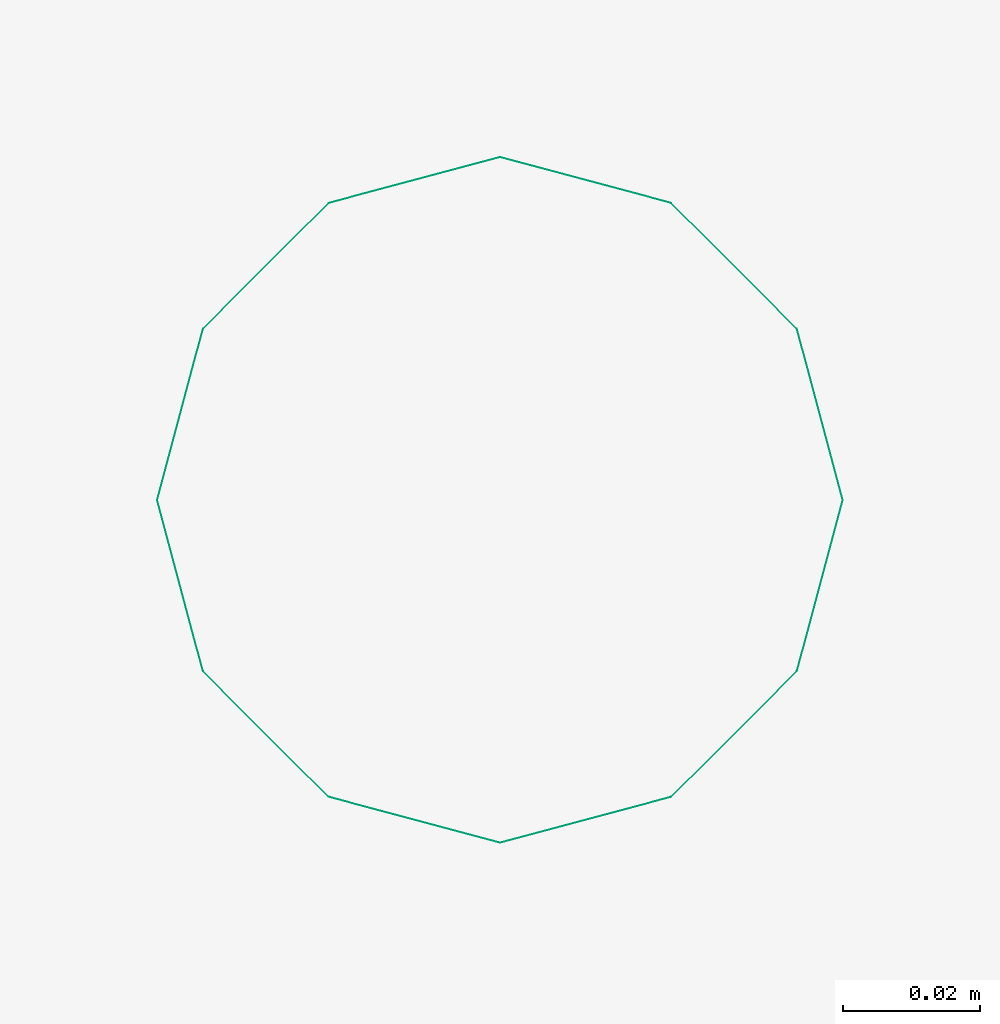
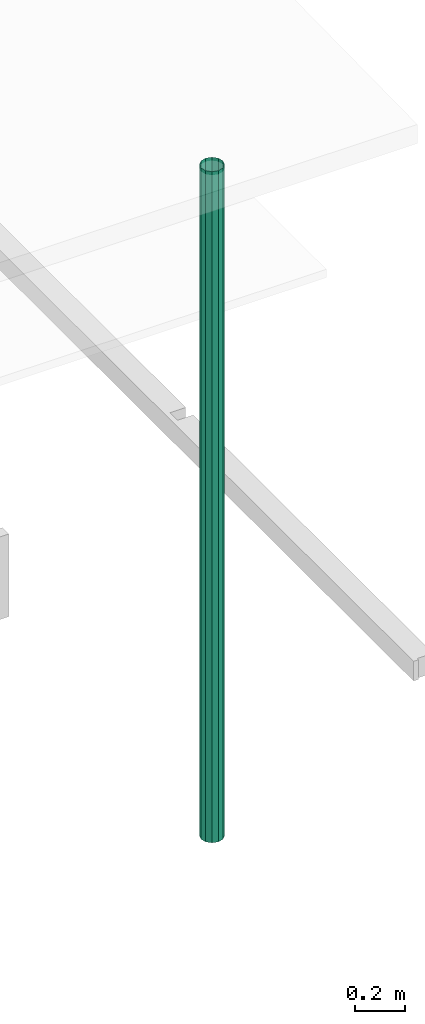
# One storey, part 23 of 25: 1 distribution flow element.
"""IFC2X3 building model written with IfcOpenShell, lengths in millimetres."""

from ifc_helpers import new_model, entity, si_unit, converted_unit, derived_unit, money_unit, direction, frame, origin_with_axes, place, context, subcontext, project, spatial, open_shell, surface_model, source, transform, mapped, type_object, type_shapes, element, save


model = new_model("IFC2X3")

# Units and contexts
model_context = context("Model", 3, precision=0.01, world=origin_with_axes(), true_north=direction((0.0, 1.0)))
body_context = subcontext(model_context, "Body", "Model", "MODEL_VIEW")
ifc_project = project(units=[si_unit("LENGTHUNIT", "METRE", prefix="MILLI"), si_unit("AREAUNIT", "SQUARE_METRE"), si_unit("VOLUMEUNIT", "CUBIC_METRE"), converted_unit("PLANEANGLEUNIT", "DEGREE", entity("IfcPlaneAngleMeasure", 0.0174532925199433), si_unit("PLANEANGLEUNIT", "RADIAN"), dimensions=[0, 0, 0, 0, 0, 0, 0]), money_unit("EUR"), converted_unit("TIMEUNIT", "Year", entity("IfcTimeMeasure", 31557600.0), si_unit("TIMEUNIT", "SECOND"), dimensions=[0, 0, 1, 0, 0, 0, 0]), si_unit("MASSUNIT", "GRAM", prefix="KILO"), si_unit("THERMODYNAMICTEMPERATUREUNIT", "DEGREE_CELSIUS"), si_unit("LUMINOUSINTENSITYUNIT", "LUMEN"), si_unit("ENERGYUNIT", "JOULE", prefix="MEGA"), derived_unit("THERMALCONDUCTANCEUNIT", [(si_unit("POWERUNIT", "WATT"), 1), (si_unit("LENGTHUNIT", "METRE"), -1), (si_unit("THERMODYNAMICTEMPERATUREUNIT", "KELVIN"), -1)]), derived_unit("SPECIFICHEATCAPACITYUNIT", [(si_unit("ENERGYUNIT", "JOULE"), 1), (si_unit("MASSUNIT", "GRAM", prefix="KILO"), -1), (si_unit("THERMODYNAMICTEMPERATUREUNIT", "KELVIN"), -1)]), derived_unit("MASSDENSITYUNIT", [(si_unit("MASSUNIT", "GRAM", prefix="KILO"), 1), (si_unit("VOLUMEUNIT", "CUBIC_METRE"), -1)])], contexts=[model_context])

# Site, building, storey
site_placement = place(None, origin_with_axes())
site = spatial("IfcSite", under=ifc_project, at=site_placement, Name="<site naam>", CompositionType="ELEMENT")
building_placement = place(site_placement, origin_with_axes())
building = spatial("IfcBuilding", under=site, at=building_placement, Name="<Naam gebouw>", CompositionType="ELEMENT")
storey_placement = place(building_placement, frame((0.0, 0.0, 9563.0), z_axis=(0.0, 0.0, 1.0), x_axis=(1.0, 0.0, 0.0)))
storey = spatial("IfcBuildingStorey", under=building, at=storey_placement, Name="03 3e tussenverdieping", CompositionType="ELEMENT", Elevation=9563.0)

# Distribution flow element
valve_type = type_object("IfcValveType", Name="Regenpijp 27", PredefinedType="AIRRELEASE")
shared_shape = source(origin_with_axes(), body_context, "Body", "SurfaceModel", [
    surface_model("IfcShellBasedSurfaceModel", [(-50.0, -30.0, 3246.999999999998), (-50.0, -30.0, 0.0), (-43.30127018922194, -54.99999999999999, 0.0), (-43.30127018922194, -54.99999999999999, 3246.999999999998), (-43.30127018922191, -4.999999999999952, 3246.999999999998), (-43.30127018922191, -4.999999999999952, 0.0), (-25.00000000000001, -73.30127018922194, 0.0), (-25.00000000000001, -73.30127018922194, 3246.999999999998), (-24.99999999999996, 13.30127018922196, 3246.999999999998), (-24.99999999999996, 13.30127018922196, 0.0), (0.0, -80.0, 0.0), (0.0, -80.0, 3246.999999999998), (0.0, 20.0, 3246.999999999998), (0.0, 20.0, 0.0), (24.99999999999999, -73.30127018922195, 0.0), (24.99999999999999, -73.30127018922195, 3246.999999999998), (25.00000000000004, 13.30127018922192, 3246.999999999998), (25.00000000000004, 13.30127018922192, 0.0), (43.30127018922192, -55.00000000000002, 0.0), (43.30127018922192, -55.00000000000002, 3246.999999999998), (43.30127018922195, -5.000000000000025, 3246.999999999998), (43.30127018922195, -5.000000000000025, 0.0), (50.0, -30.00000000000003, 0.0), (50.0, -30.00000000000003, 3246.999999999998)], [open_shell([[[0, 1, 2, 3]], [[4, 5, 1, 0]], [[3, 2, 6, 7]], [[8, 9, 5, 4]], [[7, 6, 10, 11]], [[12, 13, 9, 8]], [[11, 10, 14, 15]], [[16, 17, 13, 12]], [[15, 14, 18, 19]], [[20, 21, 17, 16]], [[19, 18, 22, 23]], [[23, 22, 21, 20]]])]),
])
type_shapes(valve_type, [shared_shape])
distribution_flow_element_placement = place(storey_placement, frame((69225.000113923, 140.9107379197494, 0.0), z_axis=(0.0, 0.0, 1.0), x_axis=(1.0, 0.0, 0.0)))
element("IfcDistributionFlowElement", 1, at=distribution_flow_element_placement, inside=storey, type_object=valve_type, Name="52_Wasmachine_Lege", context=body_context, shape_type="MappedRepresentation", body=[
    mapped(shared_shape, transform((0.0, 0.0, 0.0))),
])

save(model, "model.ifc")
